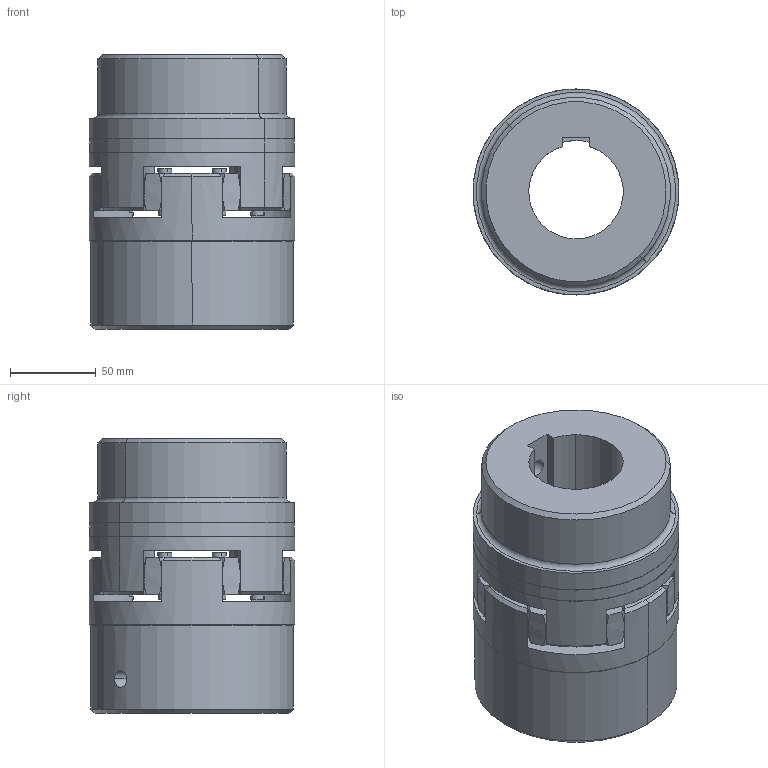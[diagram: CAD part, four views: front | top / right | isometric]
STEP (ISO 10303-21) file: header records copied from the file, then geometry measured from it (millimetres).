
FILE_DESCRIPTION (( 'STEP AP214' ), '1' );
FILE_NAME ('Sprzêg³o Rotex 55-70.STEP', '2026-06-01T07:41:10', ( '' ), ( '' ), 'SwSTEP 2.0', 'SolidWorks 2022', '' );
FILE_SCHEMA (( 'AUTOMOTIVE_DESIGN' ));
Length unit declared in the file: millimetre
Products named in the file (4): Sprz璕這 Rotex 55-70; £¹cznik Rotex 55.stp; 020553107000_S214.stp; Rotex 55.stp
Assembly tree (3 placements, depth 2):
  Sprz璕這 Rotex 55-70
    020553107000_S214.stp
    £¹cznik Rotex 55.stp
    Rotex 55.stp
Bounding box: 120 x 120 x 160 mm (x, y, z)
Volume: 1153064.6 mm3; surface area: 152569.3 mm2
Topology: 3 solids, 3 shells, 155 faces, 404 edges, 266 vertices
Faces by surface type: cylinder 66, plane 39, bspline 32, cone 14, torus 4
Entity records: 6765 total; most frequent: CARTESIAN_POINT 2906, ORIENTED_EDGE 808, DIRECTION 752, EDGE_CURVE 404, AXIS2_PLACEMENT_3D 327, VERTEX_POINT 266, CIRCLE 198, EDGE_LOOP 176
